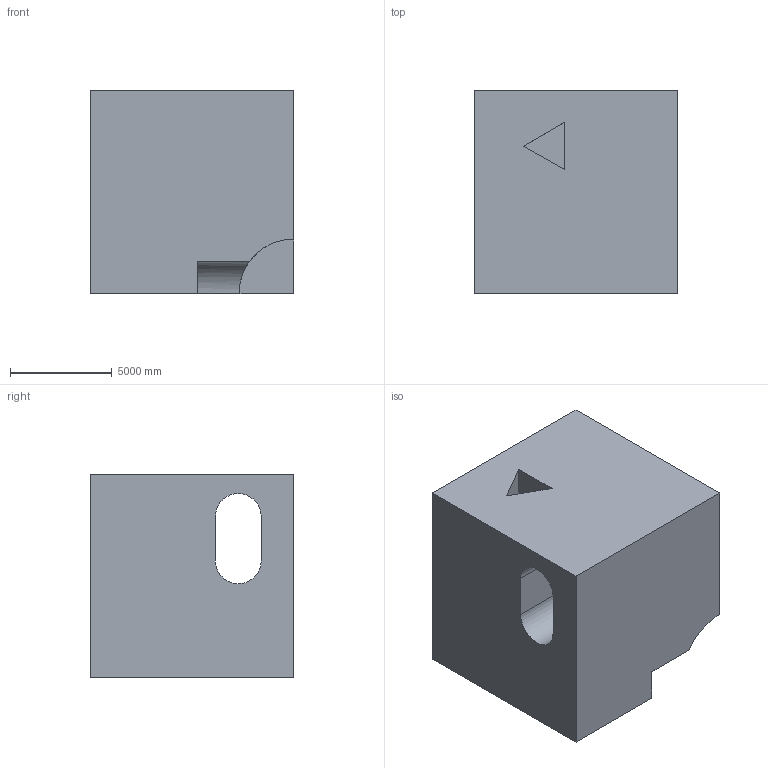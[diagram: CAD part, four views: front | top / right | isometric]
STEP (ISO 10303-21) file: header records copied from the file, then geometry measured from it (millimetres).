
FILE_DESCRIPTION (( 'STEP AP203' ), '1' );
FILE_NAME ('1427.STEP', '2022-08-18T14:24:38', ( 'user' ), ( '' ), 'SwSTEP 2.0', 'SolidWorks 2021', '' );
FILE_SCHEMA (( 'CONFIG_CONTROL_DESIGN' ));
Length unit declared in the file: centimetre
Products named in the file (1): 1427
Bounding box: 10000 x 10000 x 10000 mm (x, y, z)
Volume: 830490509345.6 mm3; surface area: 735826127.7 mm2
Topology: 1 solids, 1 shells, 26 faces, 66 edges, 44 vertices
Faces by surface type: plane 21, cylinder 5
Entity records: 938 total; most frequent: CARTESIAN_POINT 217, ORIENTED_EDGE 132, DIRECTION 128, EDGE_CURVE 66, VECTOR 56, LINE 56, VERTEX_POINT 44, AXIS2_PLACEMENT_3D 36
